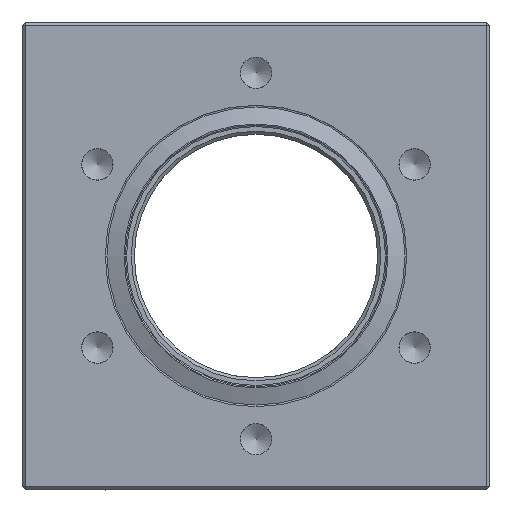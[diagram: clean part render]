
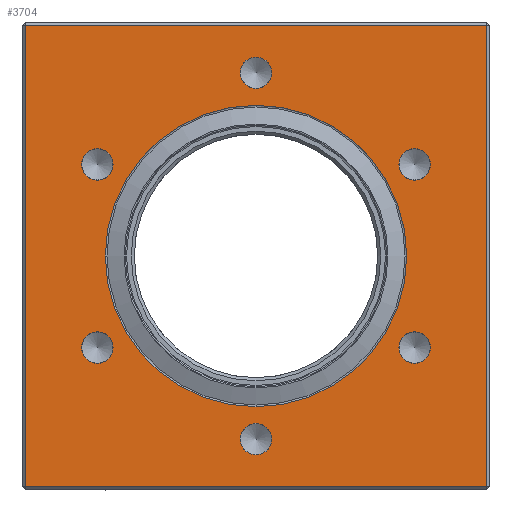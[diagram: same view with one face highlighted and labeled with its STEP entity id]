
A CAD part, front view. The second image highlights one B-rep face of the part: STEP entity #3704.
In plain terms, the highlighted planar face has unit normal (0, -1, 0).
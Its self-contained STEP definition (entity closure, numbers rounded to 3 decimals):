
#147=FACE_BOUND('',#796,.T.);
#148=FACE_BOUND('',#797,.T.);
#149=FACE_BOUND('',#798,.T.);
#150=FACE_BOUND('',#799,.T.);
#151=FACE_BOUND('',#800,.T.);
#152=FACE_BOUND('',#801,.T.);
#153=FACE_BOUND('',#802,.T.);
#229=PLANE('',#4168);
#482=FACE_OUTER_BOUND('',#795,.T.);
#795=EDGE_LOOP('',(#3054,#3055,#3056,#3057));
#796=EDGE_LOOP('',(#3058));
#797=EDGE_LOOP('',(#3059));
#798=EDGE_LOOP('',(#3060));
#799=EDGE_LOOP('',(#3061));
#800=EDGE_LOOP('',(#3062));
#801=EDGE_LOOP('',(#3063));
#802=EDGE_LOOP('',(#3064));
#1075=LINE('',#6272,#1285);
#1077=LINE('',#6275,#1287);
#1081=LINE('',#6281,#1291);
#1083=LINE('',#6284,#1293);
#1285=VECTOR('',#5034,10.);
#1287=VECTOR('',#5038,10.);
#1291=VECTOR('',#5046,10.);
#1293=VECTOR('',#5050,10.);
#1535=CIRCLE('',#4109,24.15);
#1568=CIRCLE('',#4169,2.518);
#1569=CIRCLE('',#4170,2.518);
#1570=CIRCLE('',#4171,2.518);
#1571=CIRCLE('',#4172,2.518);
#1572=CIRCLE('',#4173,2.518);
#1573=CIRCLE('',#4174,2.518);
#1817=VERTEX_POINT('',#6189);
#1819=VERTEX_POINT('',#6196);
#1822=VERTEX_POINT('',#6203);
#1828=VERTEX_POINT('',#6220);
#1834=VERTEX_POINT('',#6237);
#1873=VERTEX_POINT('',#6354);
#1874=VERTEX_POINT('',#6356);
#1875=VERTEX_POINT('',#6358);
#1876=VERTEX_POINT('',#6360);
#1877=VERTEX_POINT('',#6362);
#1878=VERTEX_POINT('',#6364);
#2223=EDGE_CURVE('',#1817,#1817,#1535,.T.);
#2264=EDGE_CURVE('',#1822,#1834,#1075,.T.);
#2266=EDGE_CURVE('',#1834,#1828,#1077,.T.);
#2270=EDGE_CURVE('',#1828,#1819,#1081,.T.);
#2272=EDGE_CURVE('',#1819,#1822,#1083,.T.);
#2305=EDGE_CURVE('',#1873,#1873,#1568,.T.);
#2306=EDGE_CURVE('',#1874,#1874,#1569,.T.);
#2307=EDGE_CURVE('',#1875,#1875,#1570,.T.);
#2308=EDGE_CURVE('',#1876,#1876,#1571,.T.);
#2309=EDGE_CURVE('',#1877,#1877,#1572,.T.);
#2310=EDGE_CURVE('',#1878,#1878,#1573,.T.);
#3054=ORIENTED_EDGE('',*,*,#2264,.F.);
#3055=ORIENTED_EDGE('',*,*,#2272,.F.);
#3056=ORIENTED_EDGE('',*,*,#2270,.F.);
#3057=ORIENTED_EDGE('',*,*,#2266,.F.);
#3058=ORIENTED_EDGE('',*,*,#2223,.T.);
#3059=ORIENTED_EDGE('',*,*,#2305,.T.);
#3060=ORIENTED_EDGE('',*,*,#2306,.T.);
#3061=ORIENTED_EDGE('',*,*,#2307,.T.);
#3062=ORIENTED_EDGE('',*,*,#2308,.T.);
#3063=ORIENTED_EDGE('',*,*,#2309,.T.);
#3064=ORIENTED_EDGE('',*,*,#2310,.T.);
#3704=ADVANCED_FACE('',(#482,#147,#148,#149,#150,#151,#152,#153),#229,.T.);
#4109=AXIS2_PLACEMENT_3D('',#6190,#4957,#4958);
#4168=AXIS2_PLACEMENT_3D('',#6353,#5124,#5125);
#4169=AXIS2_PLACEMENT_3D('',#6355,#5126,#5127);
#4170=AXIS2_PLACEMENT_3D('',#6357,#5128,#5129);
#4171=AXIS2_PLACEMENT_3D('',#6359,#5130,#5131);
#4172=AXIS2_PLACEMENT_3D('',#6361,#5132,#5133);
#4173=AXIS2_PLACEMENT_3D('',#6363,#5134,#5135);
#4174=AXIS2_PLACEMENT_3D('',#6365,#5136,#5137);
#4957=DIRECTION('center_axis',(0.,1.,0.));
#4958=DIRECTION('ref_axis',(1.,0.,0.));
#5034=DIRECTION('',(-1.,0.,0.));
#5038=DIRECTION('',(0.,0.,1.));
#5046=DIRECTION('',(1.,0.,0.));
#5050=DIRECTION('',(0.,0.,-1.));
#5124=DIRECTION('center_axis',(0.,-1.,0.));
#5125=DIRECTION('ref_axis',(-1.,0.,0.));
#5126=DIRECTION('center_axis',(0.,1.,0.));
#5127=DIRECTION('ref_axis',(0.,0.,-1.));
#5128=DIRECTION('center_axis',(0.,1.,0.));
#5129=DIRECTION('ref_axis',(0.5,0.,-0.866));
#5130=DIRECTION('center_axis',(0.,1.,0.));
#5131=DIRECTION('ref_axis',(0.,0.,-1.));
#5132=DIRECTION('center_axis',(0.,1.,0.));
#5133=DIRECTION('ref_axis',(0.,0.,-1.));
#5134=DIRECTION('center_axis',(0.,1.,0.));
#5135=DIRECTION('ref_axis',(0.,0.,-1.));
#5136=DIRECTION('center_axis',(0.,1.,0.));
#5137=DIRECTION('ref_axis',(0.,0.,-1.));
#6189=CARTESIAN_POINT('',(-24.15,-37.5,0.));
#6190=CARTESIAN_POINT('Origin',(0.,-37.5,0.));
#6196=CARTESIAN_POINT('',(37.,-37.5,37.));
#6203=CARTESIAN_POINT('',(37.,-37.5,-37.));
#6220=CARTESIAN_POINT('',(-37.,-37.5,37.));
#6237=CARTESIAN_POINT('',(-37.,-37.5,-37.));
#6272=CARTESIAN_POINT('',(18.75,-37.5,-37.));
#6275=CARTESIAN_POINT('',(-37.,-37.5,-18.75));
#6281=CARTESIAN_POINT('',(-18.75,-37.5,37.));
#6284=CARTESIAN_POINT('',(37.,-37.5,18.75));
#6353=CARTESIAN_POINT('Origin',(0.,-37.5,0.));
#6354=CARTESIAN_POINT('',(-25.418,-37.5,17.193));
#6355=CARTESIAN_POINT('Origin',(-25.418,-37.5,14.675));
#6356=CARTESIAN_POINT('',(24.159,-37.5,16.855));
#6357=CARTESIAN_POINT('Origin',(25.418,-37.5,14.675));
#6358=CARTESIAN_POINT('',(0.,-37.5,31.868));
#6359=CARTESIAN_POINT('Origin',(0.,-37.5,29.35));
#6360=CARTESIAN_POINT('',(-25.418,-37.5,-12.158));
#6361=CARTESIAN_POINT('Origin',(-25.418,-37.5,-14.675));
#6362=CARTESIAN_POINT('',(25.418,-37.5,-12.158));
#6363=CARTESIAN_POINT('Origin',(25.418,-37.5,-14.675));
#6364=CARTESIAN_POINT('',(0.,-37.5,-26.833));
#6365=CARTESIAN_POINT('Origin',(0.,-37.5,-29.35));
